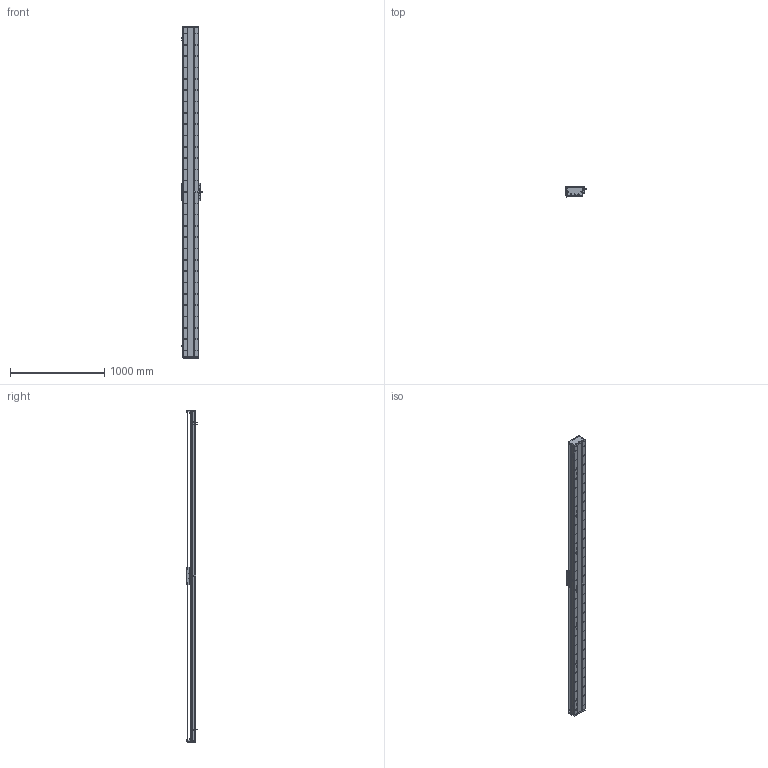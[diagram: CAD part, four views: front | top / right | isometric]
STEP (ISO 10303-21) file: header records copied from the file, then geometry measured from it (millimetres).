
FILE_DESCRIPTION (( 'STEP AP203' ), '1' );
FILE_NAME ('DA-C165-C2-T3240-C010-0.2 直线电机.STEP', '2023-05-11T07:56:36', ( '微软用户' ), ( '微软中国' ), 'SwSTEP 2.0', 'SolidWorks 2019', '' );
FILE_SCHEMA (( 'CONFIG_CONTROL_DESIGN' ));
Length unit declared in the file: millimetre
Products named in the file (18): 复件 DMA-010-0.2 读数头^DA-C165-C2-T-C010-0.2-N 直线电机; 葩璃 PM-T45^DA-C165-C2-T-C010-0.2-N 眻盄萇儂; IU-CU165-L-00 菁釱_L3480; IU-CU165-L 菁釱絳寢; 复件 DA165-GD-DG-H-00 端盖^复件 CU165钢带组件_DA-C165-C2-T-C010-0.2-N 直线电机; DA-C165-C2-T3240-C010-0.2 眻盄萇儂; 复件 XD-U-02L 磁栅尺^DA-C165-C2-T-C010-0.2-N 直线电机_T; 复件 DA165-GDYK-00 钢带压块^复件 CU165钢带组件_DA-C165-C2-T-C010-0.2-N 直线电机; 复件 DA165-GD-1860-002-00 钢带盖板^复件 CU165钢带组件_DA-C165-C2-T-C010-0.2-N 直线电机; 复件 CKM02-W075-C1C2-TP-3.0 一体电机-C2^DA-C165-C2-T-C010-0.2-N 直线电机; 复件 DA165-GYP-00 光电感应片^DA-C165-C2-T-C010-0.2-N 直线电机; 复件 DA95-HXJ-00 缓冲橡胶^DA-C165-C2-T-C010-0.2-N 直线电机; 复件 DA165-GDLK-00 钢带拉块^复件 CU165钢带组件_DA-C165-C2-T-C010-0.2-N 直线电机; 复件 六角薄螺母 M3^DA-C165-C2-T-C010-0.2-N 直线电机_GB_FASTENER_NUT_STNAB M3-C; 葩璃 CKM01-W075-TRL^DA-C165-C2-T-C010-0.2-N 眻盄萇儂; 葩璃 DA95-GT-T-00^IU-CU165-L 菁釱絳寢_T; 珨极趙賑雄怢啣wf-C2; 复件 CU165钢带组件^DA-C165-C2-T-C010-0.2-N 直线电机
Assembly tree (33 placements, depth 3):
  DA-C165-C2-T3240-C010-0.2 眻盄萇儂
    IU-CU165-L 菁釱絳寢
      IU-CU165-L-00 菁釱_L3480
      葩璃 DA95-GT-T-00^IU-CU165-L 菁釱絳寢_T  x4
    复件 XD-U-02L 磁栅尺^DA-C165-C2-T-C010-0.2-N 直线电机_T
    葩璃 PM-T45^DA-C165-C2-T-C010-0.2-N 眻盄萇儂  x3
    葩璃 CKM01-W075-TRL^DA-C165-C2-T-C010-0.2-N 眻盄萇儂
    复件 CU165钢带组件^DA-C165-C2-T-C010-0.2-N 直线电机
      复件 DA165-GD-DG-H-00 端盖^复件 CU165钢带组件_DA-C165-C2-T-C010-0.2-N 直线电机  x2
      复件 DA165-GDYK-00 钢带压块^复件 CU165钢带组件_DA-C165-C2-T-C010-0.2-N 直线电机  x2
      复件 DA165-GD-1860-002-00 钢带盖板^复件 CU165钢带组件_DA-C165-C2-T-C010-0.2-N 直线电机
      复件 DA165-GDLK-00 钢带拉块^复件 CU165钢带组件_DA-C165-C2-T-C010-0.2-N 直线电机  x2
    复件 DA95-HXJ-00 缓冲橡胶^DA-C165-C2-T-C010-0.2-N 直线电机  x4
    复件 DA165-GYP-00 光电感应片^DA-C165-C2-T-C010-0.2-N 直线电机
    复件 DMA-010-0.2 读数头^DA-C165-C2-T-C010-0.2-N 直线电机
    复件 CKM02-W075-C1C2-TP-3.0 一体电机-C2^DA-C165-C2-T-C010-0.2-N 直线电机
    复件 六角薄螺母 M3^DA-C165-C2-T-C010-0.2-N 直线电机_GB_FASTENER_NUT_STNAB M3-C  x6
    珨极趙賑雄怢啣wf-C2
Bounding box: 233 x 111.45 x 3520 mm (x, y, z)
Volume: 18874582.3 mm3; surface area: 5773872.1 mm2
Topology: 70 solids, 70 shells, 4327 faces, 13069 edges, 8405 vertices
Faces by surface type: cylinder 2717, plane 1130, cone 430, torus 46, sphere 4
Entity records: 153397 total; most frequent: CARTESIAN_POINT 43533, ORIENTED_EDGE 23310, DIRECTION 21921, EDGE_CURVE 11655, AXIS2_PLACEMENT_3D 8425, VERTEX_POINT 7641, EDGE_LOOP 5260, LINE 5071
